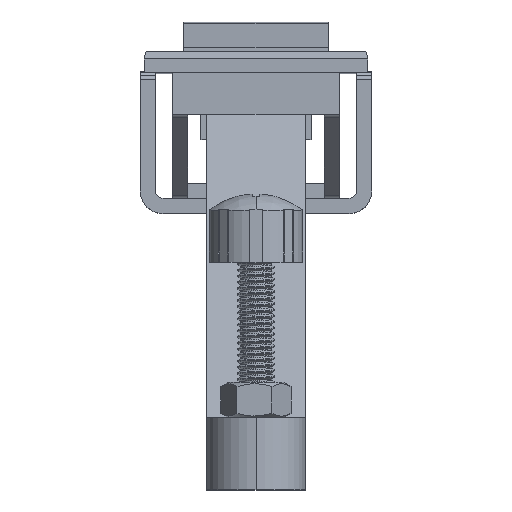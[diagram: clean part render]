
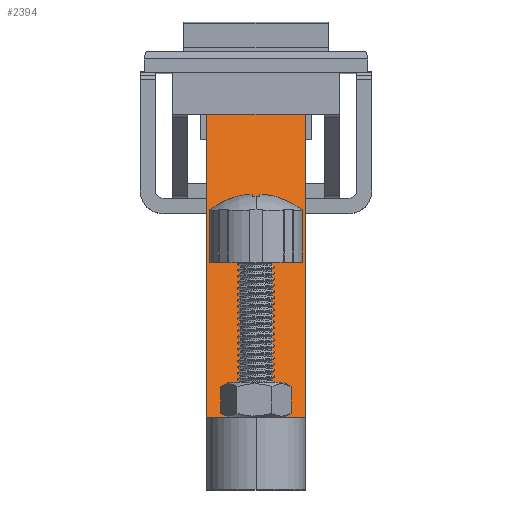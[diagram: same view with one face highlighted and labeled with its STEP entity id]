
A CAD part, top view. The second image highlights one B-rep face of the part: STEP entity #2394.
In plain terms, the highlighted planar face has unit normal (0, 0.318, 0.948).
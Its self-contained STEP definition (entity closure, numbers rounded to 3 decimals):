
#388 = FACE_OUTER_BOUND ( 'NONE', #3776, .T. ) ;
#1018 = EDGE_CURVE ( 'NONE', #5709, #2419, #16500, .T. ) ;
#2128 = CARTESIAN_POINT ( 'NONE',  ( -6.5, -2.857, 27.327 ) ) ;
#2141 = CARTESIAN_POINT ( 'NONE',  ( 6.5, -45.5, 41.65 ) ) ;
#2235 = CARTESIAN_POINT ( 'NONE',  ( 6.5, -2.857, 27.327 ) ) ;
#2394 = ADVANCED_FACE ( 'NONE', ( #388 ), #3774, .F. ) ;
#2419 = VERTEX_POINT ( 'NONE', #2128 ) ;
#2826 = DIRECTION ( 'NONE',  ( 0., -0.948, 0.318 ) ) ;
#3774 = PLANE ( 'NONE',  #12788 ) ;
#3776 = EDGE_LOOP ( 'NONE', ( #11690, #14610, #11182, #7600 ) ) ;
#3870 = DIRECTION ( 'NONE',  ( 0., 0.948, -0.318 ) ) ;
#4114 = LINE ( 'NONE', #14002, #8881 ) ;
#4861 = DIRECTION ( 'NONE',  ( -1., 0., 0. ) ) ;
#5530 = DIRECTION ( 'NONE',  ( 0., -0.948, 0.318 ) ) ;
#5687 = EDGE_CURVE ( 'NONE', #19812, #15304, #11750, .T. ) ;
#5709 = VERTEX_POINT ( 'NONE', #2235 ) ;
#7600 = ORIENTED_EDGE ( 'NONE', *, *, #1018, .T. ) ;
#8690 = DIRECTION ( 'NONE',  ( 0., -0.318, -0.948 ) ) ;
#8881 = VECTOR ( 'NONE', #5530, 1000. ) ;
#9257 = VECTOR ( 'NONE', #2826, 1000. ) ;
#9271 = LINE ( 'NONE', #19247, #9257 ) ;
#9669 = CARTESIAN_POINT ( 'NONE',  ( 6.5, -2.857, 27.327 ) ) ;
#10325 = CARTESIAN_POINT ( 'NONE',  ( 6.5, 7.959, 23.694 ) ) ;
#11182 = ORIENTED_EDGE ( 'NONE', *, *, #16961, .F. ) ;
#11690 = ORIENTED_EDGE ( 'NONE', *, *, #21213, .T. ) ;
#11750 = LINE ( 'NONE', #12143, #17800 ) ;
#12042 = CARTESIAN_POINT ( 'NONE',  ( -6.5, -45.5, 41.65 ) ) ;
#12143 = CARTESIAN_POINT ( 'NONE',  ( 6.5, -45.5, 41.65 ) ) ;
#12788 = AXIS2_PLACEMENT_3D ( 'NONE', #10325, #8690, #3870 ) ;
#14002 = CARTESIAN_POINT ( 'NONE',  ( -6.5, 7.959, 23.694 ) ) ;
#14610 = ORIENTED_EDGE ( 'NONE', *, *, #5687, .F. ) ;
#15304 = VERTEX_POINT ( 'NONE', #12042 ) ;
#16500 = LINE ( 'NONE', #9669, #17271 ) ;
#16961 = EDGE_CURVE ( 'NONE', #5709, #19812, #9271, .T. ) ;
#17271 = VECTOR ( 'NONE', #4861, 1000. ) ;
#17800 = VECTOR ( 'NONE', #18374, 1000. ) ;
#18374 = DIRECTION ( 'NONE',  ( -1., 0., 0. ) ) ;
#19247 = CARTESIAN_POINT ( 'NONE',  ( 6.5, 7.959, 23.694 ) ) ;
#19812 = VERTEX_POINT ( 'NONE', #2141 ) ;
#21213 = EDGE_CURVE ( 'NONE', #2419, #15304, #4114, .T. ) ;
